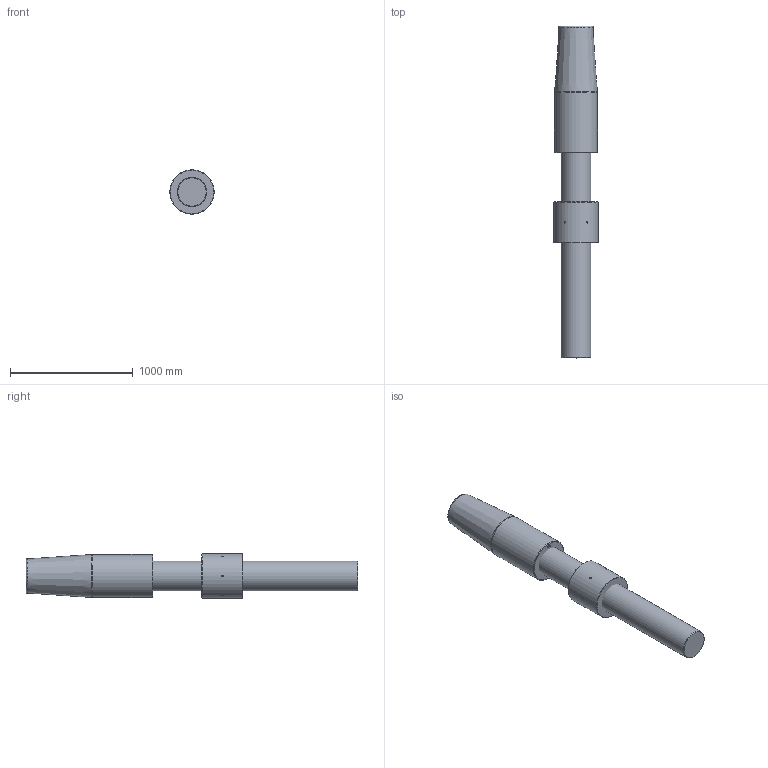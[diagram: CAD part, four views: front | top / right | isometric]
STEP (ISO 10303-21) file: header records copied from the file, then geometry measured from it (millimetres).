
FILE_DESCRIPTION(/* description */ (''),/* implementation_level */ '2;1');
FILE_NAME(/* name */ 'C:\Users\ranca\Desktop\CYM\ARRANGEMENT\CYM120 52 061 0.stp',/* time_stamp */ '2021-04-23T20:52:30+02:00',/* author */ ('ranca'),/* organization */ (''),/* preprocessor_version */ 'ST-DEVELOPER v16.13',/* originating_system */ 'Autodesk Inventor 2018',/* authorisation */ '');
FILE_SCHEMA (('AUTOMOTIVE_DESIGN { 1 0 10303 214 3 1 1 }'));
Length unit declared in the file: millimetre
Products named in the file (4): CYM120-52-061-0; CYM012-52-061-0_ROD; CYC120 52 065 0_CYL SOK_RH; CYM120-41-051-0
Assembly tree (3 placements, depth 2):
  CYM120-52-061-0
    CYM012-52-061-0_ROD
    CYC120 52 065 0_CYL SOK_RH
    CYM120-41-051-0
Bounding box: 360 x 2700 x 360 mm (x, y, z)
Volume: 212892632.5 mm3; surface area: 3394070.8 mm2
Topology: 3 solids, 3 shells, 502 faces, 1354 edges, 900 vertices
Faces by surface type: bspline 248, plane 232, cone 11, cylinder 9, torus 2
Full cylindrical faces by diameter (mm): 15 x6, 240 x1, 350 x1, 360 x1
Entity records: 17077 total; most frequent: CARTESIAN_POINT 6177, ORIENTED_EDGE 2650, DIRECTION 1362, EDGE_CURVE 1325, VERTEX_POINT 894, LINE 796, VECTOR 796, EDGE_LOOP 567
